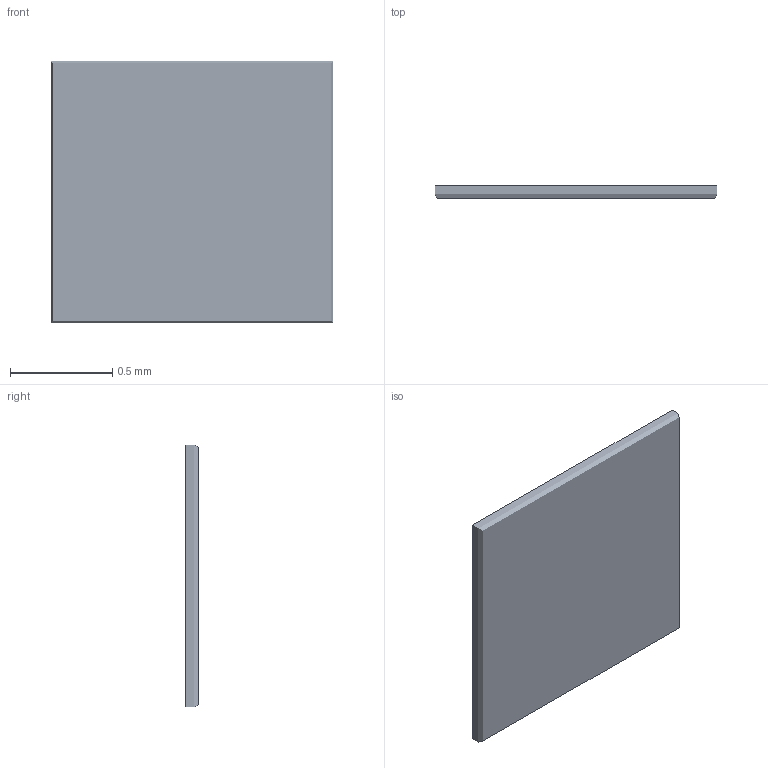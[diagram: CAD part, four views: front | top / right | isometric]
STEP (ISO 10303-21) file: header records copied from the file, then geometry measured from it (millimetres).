
FILE_DESCRIPTION(/* description */ ('STEP AP242 Edition 2','CAx-IF Rec.Pracs.---Representation and Presentation of Product Manufacturing Information (PMI)---4.0---2014-10-13','CAx-IF Rec.Pracs.---3D Tessellated Geometry---0.4---2014-09-14','2;1','CAx-IF Rec.Pracs.---User Defined Attributes---1.5---2016-08-15'),/* implementation_level */ '2;1');
FILE_NAME(/* name */ 'Assembly 1 - Part 3',/* time_stamp */ '2026-03-29T21:14:57Z',/* author */ (''),/* organization */ (''),/* preprocessor_version */ 'ST-DEVELOPER v20',/* originating_system */ 'ONSHAPE BY PTC INC, 1.212',/* authorisation */ ' ');
FILE_SCHEMA (('AP242_MANAGED_MODEL_BASED_3D_ENGINEERING_MIM_LF { 1 0 10303 442 3 1 4 }'));
Length unit declared in the file: metre
Products named in the file (1): Part 3
Bounding box: 1.38 x 0.06 x 1.28 mm (x, y, z)
Surface area: 3.8 mm2 (no closed solid volume)
Topology: 0 solids, 1 shells, 1 faces, 0 edges, 0 vertices
Faces by surface type: other 1
Entity records: 31 total; most frequent: DIRECTION 2, SHAPE_REPRESENTATION_RELATIONSHIP 1, TESSELLATED_SHAPE_REPRESENTATION 1, STYLED_ITEM 1, PRESENTATION_STYLE_ASSIGNMENT 1, SURFACE_STYLE_USAGE 1, SURFACE_SIDE_STYLE 1, SURFACE_STYLE_FILL_AREA 1
